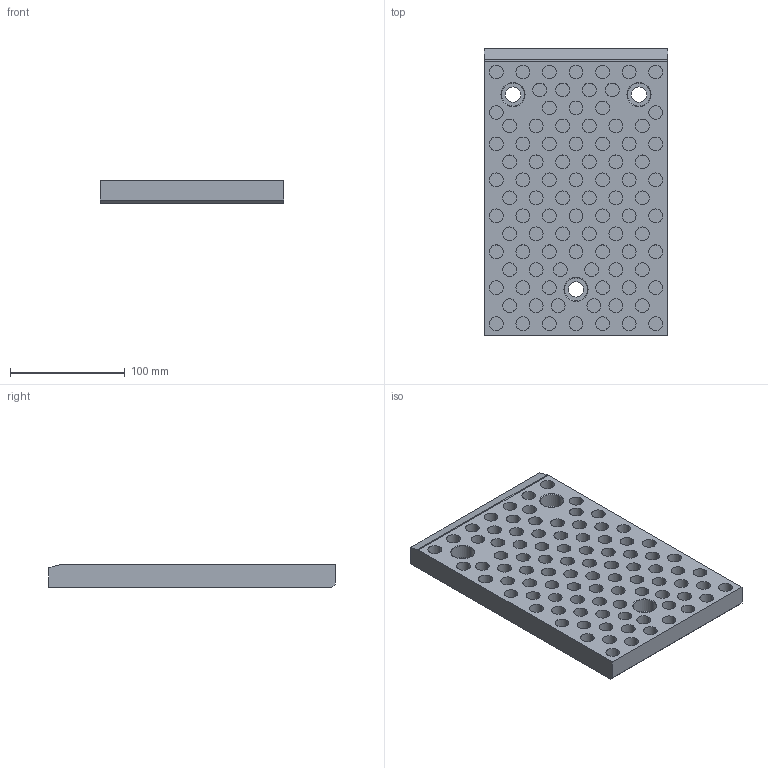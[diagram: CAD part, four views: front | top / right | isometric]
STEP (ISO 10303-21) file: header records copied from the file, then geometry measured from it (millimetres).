
FILE_DESCRIPTION (( 'STEP AP214' ), '1' );
FILE_NAME ('SW224-01-160x2501.STEP', '2020-10-14T14:44:34', ( 'August' ), ( '' ), 'SwSTEP 2.0', 'SolidWorks 2018', '' );
FILE_SCHEMA (( 'AUTOMOTIVE_DESIGN' ));
Length unit declared in the file: millimetre
Products named in the file (1): SW224-01-160x2501
Bounding box: 160 x 250 x 20 mm (x, y, z)
Volume: 684033.4 mm3; surface area: 130743.5 mm2
Topology: 1 solids, 1 shells, 309 faces, 627 edges, 416 vertices
Faces by surface type: cylinder 199, plane 104, cone 6
Entity records: 8673 total; most frequent: DIRECTION 1651, CARTESIAN_POINT 1353, ORIENTED_EDGE 1254, AXIS2_PLACEMENT_3D 714, EDGE_CURVE 627, VERTEX_POINT 416, EDGE_LOOP 411, CIRCLE 404
